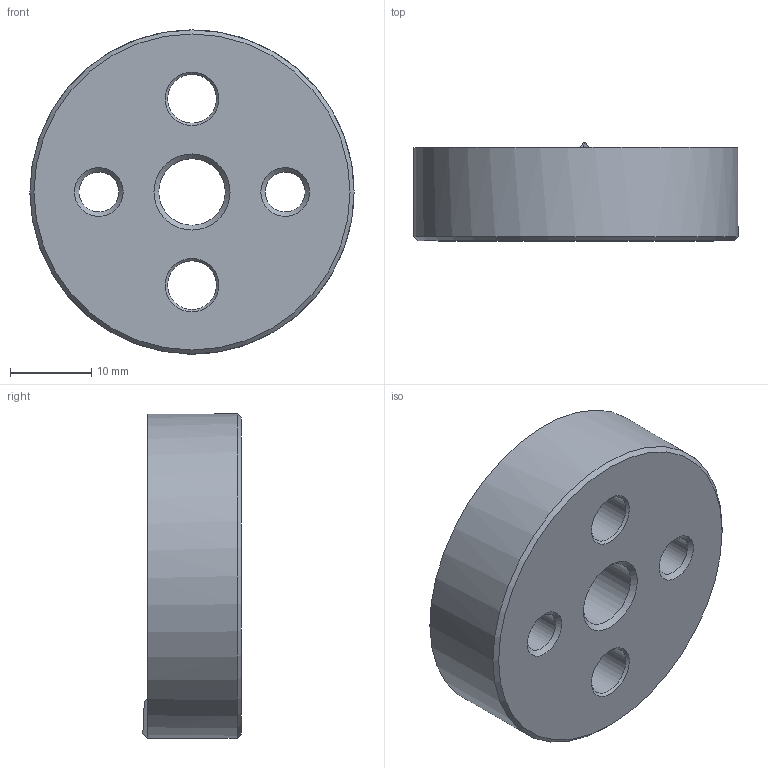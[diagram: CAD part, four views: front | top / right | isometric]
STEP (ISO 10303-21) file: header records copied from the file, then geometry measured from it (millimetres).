
FILE_DESCRIPTION( ( 'STEP AP203' ), '1' );
FILE_NAME( 'C:/Temp/Ganter_Step_05_03_2020/data/3_2/gn187_4/gn187_4_st/Serrated locking plate GN 187.4-40-60-D-ST.stp', '2020-03-13T05:25:49', ( 'License CC BY-ND 4.0' ), ( 'CADENAS' ), ' ', 'PARTsolutions', ' ' );
FILE_SCHEMA( ( 'CONFIG_CONTROL_DESIGN' ) );
Length unit declared in the file: millimetre
Products named in the file (1): _Serrated locking plate GN 187.4-40-60-D-ST
Bounding box: 40 x 12.13 x 40 mm (x, y, z)
Volume: 11877.2 mm3; surface area: 4677.1 mm2
Topology: 1 solids, 1 shells, 30 faces, 74 edges, 46 vertices
Faces by surface type: cone 14, cylinder 9, plane 7
Full cylindrical faces by diameter (mm): 4.917 x2, 6 x2, 8.2 x1, 30 x1, 40 x1
Entity records: 924 total; most frequent: CARTESIAN_POINT 229, DIRECTION 142, ORIENTED_EDGE 106, AXIS2_PLACEMENT_3D 68, EDGE_LOOP 58, EDGE_CURVE 53, VERTEX_POINT 43, FACE_OUTER_BOUND 37
